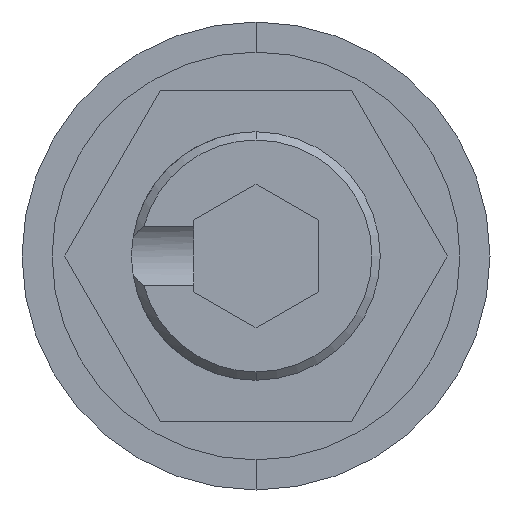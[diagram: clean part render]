
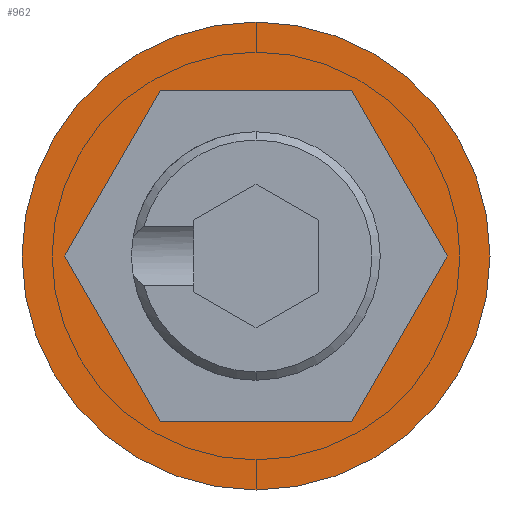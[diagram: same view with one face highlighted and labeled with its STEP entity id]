
A CAD part, front view. The second image highlights one B-rep face of the part: STEP entity #962.
In plain terms, the highlighted planar face has unit normal (0, -1, 0).
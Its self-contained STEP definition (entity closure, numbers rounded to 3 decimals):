
#35 = CARTESIAN_POINT ( 'NONE',  ( 0., 0., 0. ) ) ;
#119 = DIRECTION ( 'NONE',  ( 0., 0., -1. ) ) ;
#165 = DIRECTION ( 'NONE',  ( 0., 0., -1. ) ) ;
#240 = EDGE_CURVE ( 'NONE', #1489, #1872, #265, .T. ) ;
#265 = CIRCLE ( 'NONE', #1618, 5.65 ) ;
#282 = CARTESIAN_POINT ( 'NONE',  ( 2.309, 0., -4. ) ) ;
#297 = DIRECTION ( 'NONE',  ( 0., -1., 0. ) ) ;
#340 = DIRECTION ( 'NONE',  ( 0., -1., 0. ) ) ;
#368 = VECTOR ( 'NONE', #1646, 1000. ) ;
#454 = CARTESIAN_POINT ( 'NONE',  ( -4.619, 0., 0. ) ) ;
#458 = DIRECTION ( 'NONE',  ( 0.5, 0., -0.866 ) ) ;
#465 = LINE ( 'NONE', #1739, #368 ) ;
#521 = ORIENTED_EDGE ( 'NONE', *, *, #1258, .T. ) ;
#536 = AXIS2_PLACEMENT_3D ( 'NONE', #1283, #297, #119 ) ;
#542 = ORIENTED_EDGE ( 'NONE', *, *, #240, .T. ) ;
#544 = ORIENTED_EDGE ( 'NONE', *, *, #946, .F. ) ;
#547 = ORIENTED_EDGE ( 'NONE', *, *, #820, .F. ) ;
#554 = ORIENTED_EDGE ( 'NONE', *, *, #1880, .F. ) ;
#559 = ORIENTED_EDGE ( 'NONE', *, *, #996, .F. ) ;
#565 = ORIENTED_EDGE ( 'NONE', *, *, #1407, .F. ) ;
#571 = ORIENTED_EDGE ( 'NONE', *, *, #2101, .F. ) ;
#585 = VECTOR ( 'NONE', #458, 1000. ) ;
#611 = LINE ( 'NONE', #454, #585 ) ;
#652 = VERTEX_POINT ( 'NONE', #875 ) ;
#820 = EDGE_CURVE ( 'NONE', #1167, #1211, #2078, .T. ) ;
#823 = VERTEX_POINT ( 'NONE', #1434 ) ;
#875 = CARTESIAN_POINT ( 'NONE',  ( -4.619, 0., 0. ) ) ;
#934 = VERTEX_POINT ( 'NONE', #282 ) ;
#941 = VERTEX_POINT ( 'NONE', #1594 ) ;
#946 = EDGE_CURVE ( 'NONE', #823, #1167, #1924, .T. ) ;
#962 = ADVANCED_FACE ( 'NONE', ( #1918, #1876 ), #1619, .T. ) ;
#982 = VECTOR ( 'NONE', #1614, 1000. ) ;
#996 = EDGE_CURVE ( 'NONE', #934, #823, #1798, .T. ) ;
#1007 = LINE ( 'NONE', #1390, #982 ) ;
#1167 = VERTEX_POINT ( 'NONE', #1937 ) ;
#1171 = AXIS2_PLACEMENT_3D ( 'NONE', #1610, #1609, #1621 ) ;
#1211 = VERTEX_POINT ( 'NONE', #2021 ) ;
#1221 = CIRCLE ( 'NONE', #536, 5.65 ) ;
#1258 = EDGE_CURVE ( 'NONE', #1872, #1489, #1221, .T. ) ;
#1266 = EDGE_LOOP ( 'NONE', ( #542, #521 ) ) ;
#1279 = EDGE_LOOP ( 'NONE', ( #565, #554, #571, #547, #544, #559 ) ) ;
#1283 = CARTESIAN_POINT ( 'NONE',  ( 0., 0., 0. ) ) ;
#1390 = CARTESIAN_POINT ( 'NONE',  ( -2.309, 0., -4. ) ) ;
#1407 = EDGE_CURVE ( 'NONE', #941, #934, #1007, .T. ) ;
#1422 = CARTESIAN_POINT ( 'NONE',  ( 0., 0., 5.65 ) ) ;
#1434 = CARTESIAN_POINT ( 'NONE',  ( 4.619, 0., 0. ) ) ;
#1438 = CARTESIAN_POINT ( 'NONE',  ( 2.309, 0., 4. ) ) ;
#1443 = DIRECTION ( 'NONE',  ( -1., 0., 0. ) ) ;
#1489 = VERTEX_POINT ( 'NONE', #2079 ) ;
#1594 = CARTESIAN_POINT ( 'NONE',  ( -2.309, 0., -4. ) ) ;
#1599 = CARTESIAN_POINT ( 'NONE',  ( 4.619, 0., 0. ) ) ;
#1605 = DIRECTION ( 'NONE',  ( -0.5, 0., 0.866 ) ) ;
#1609 = DIRECTION ( 'NONE',  ( 0., -1., 0. ) ) ;
#1610 = CARTESIAN_POINT ( 'NONE',  ( 0., 0., 0. ) ) ;
#1614 = DIRECTION ( 'NONE',  ( 1., 0., 0. ) ) ;
#1618 = AXIS2_PLACEMENT_3D ( 'NONE', #35, #340, #165 ) ;
#1619 = PLANE ( 'NONE',  #1171 ) ;
#1621 = DIRECTION ( 'NONE',  ( 0., 0., -1. ) ) ;
#1646 = DIRECTION ( 'NONE',  ( -0.5, 0., -0.866 ) ) ;
#1718 = DIRECTION ( 'NONE',  ( 0.5, 0., 0.866 ) ) ;
#1721 = CARTESIAN_POINT ( 'NONE',  ( 2.309, 0., -4. ) ) ;
#1739 = CARTESIAN_POINT ( 'NONE',  ( -2.309, 0., 4. ) ) ;
#1784 = VECTOR ( 'NONE', #1718, 1000. ) ;
#1798 = LINE ( 'NONE', #1721, #1784 ) ;
#1872 = VERTEX_POINT ( 'NONE', #1422 ) ;
#1876 = FACE_OUTER_BOUND ( 'NONE', #1266, .T. ) ;
#1880 = EDGE_CURVE ( 'NONE', #652, #941, #611, .T. ) ;
#1918 = FACE_BOUND ( 'NONE', #1279, .T. ) ;
#1924 = LINE ( 'NONE', #1599, #1934 ) ;
#1934 = VECTOR ( 'NONE', #1605, 1000. ) ;
#1937 = CARTESIAN_POINT ( 'NONE',  ( 2.309, 0., 4. ) ) ;
#2021 = CARTESIAN_POINT ( 'NONE',  ( -2.309, 0., 4. ) ) ;
#2078 = LINE ( 'NONE', #1438, #2087 ) ;
#2079 = CARTESIAN_POINT ( 'NONE',  ( 0., 0., -5.65 ) ) ;
#2087 = VECTOR ( 'NONE', #1443, 1000. ) ;
#2101 = EDGE_CURVE ( 'NONE', #1211, #652, #465, .T. ) ;
